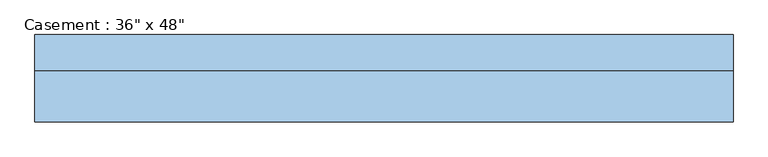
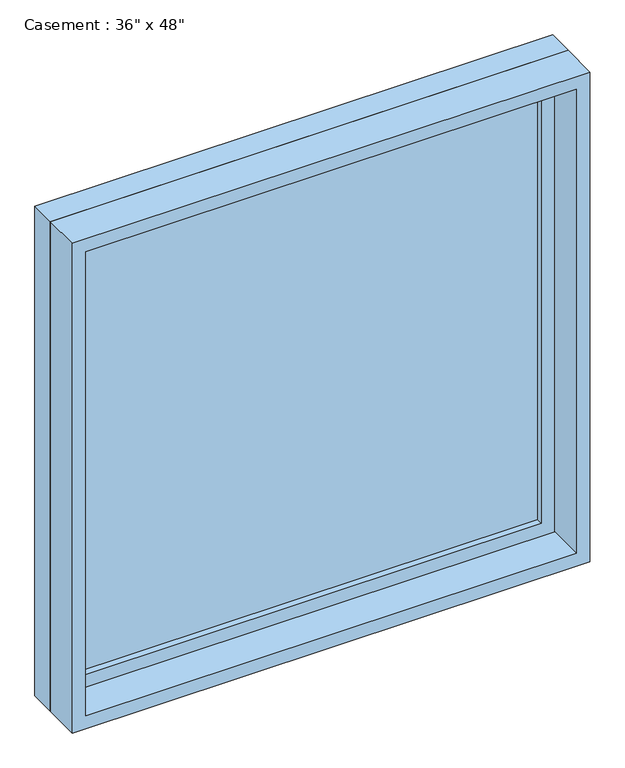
"""IFC4 building model written with IfcOpenShell, lengths in millimetres: window geometry."""

from ifc_helpers import new_model, si_unit, frame, origin, place, context, project, spatial, polyline, outline, extrude, source, transform, mapped, element, save


def window_ae901b66(model_context):
    return source(origin(), model_context, "Body", "SweptSolid", [
        extrude(outline(polyline([(546.1, 28.575), (-546.1, 28.575), (-546.1, 41.275), (546.1, 41.275), (546.1, 28.575)])), frame((0.0, 0.0, 977.9), z_axis=(0.0, 0.0, 1.0), x_axis=(1.0, 0.0, 0.0)), (0.0, 0.0, 1.0), 1092.2),
        extrude(outline(polyline([(2114.55, -590.55), (933.45, -590.55), (933.45, 590.55), (2114.55, 590.55), (2114.55, -590.55)]), holes=[polyline([(2070.1, -546.1), (2070.1, 546.1), (977.9, 546.1), (977.9, -546.1), (2070.1, -546.1)])]), frame((0.0, 12.7, 0.0), z_axis=(0.0, 1.0, 0.0), x_axis=(0.0, 0.0, 1.0)), (0.0, 0.0, 1.0), 44.45),
        extrude(outline(polyline([(2133.6, -609.6), (914.4, -609.6), (914.4, 609.6), (2133.6, 609.6), (2133.6, -609.6)]), holes=[polyline([(2101.85, -577.85), (2101.85, 577.85), (946.15, 577.85), (946.15, -577.85), (2101.85, -577.85)])]), frame((0.0, -76.2, 0.0), z_axis=(0.0, 1.0, 0.0), x_axis=(0.0, 0.0, 1.0)), (0.0, 0.0, 1.0), 88.9),
        extrude(outline(polyline([(2133.6, 609.6), (2133.6, -609.6), (914.4, -609.6), (914.4, 609.6), (2133.6, 609.6)]), holes=[polyline([(2114.55, 590.55), (933.45, 590.55), (933.45, -590.55), (2114.55, -590.55), (2114.55, 590.55)])]), frame((0.0, 12.7, 0.0), z_axis=(0.0, 1.0, 0.0), x_axis=(0.0, 0.0, 1.0)), (0.0, 0.0, 1.0), 63.5),
    ])


if __name__ == "__main__":
    model = new_model("IFC4")
    model_context = context("Model", 3, world=origin())
    ifc_project = project(units=[si_unit("LENGTHUNIT", "METRE", prefix="MILLI")], contexts=[model_context])
    site = spatial("IfcSite", under=ifc_project)
    building = spatial("IfcBuilding", under=site)
    placement = place(None, origin())
    window_shape = window_ae901b66(model_context)
    element("IfcWindow", 1, ObjectType="Casement : 36\" x 48\"", at=placement, inside=building, context=model_context, shape_type="MappedRepresentation", body=[
        mapped(window_shape, transform((0.0, 0.0, 0.0), x_axis=(1.0, 0.0, 0.0), y_axis=(0.0, 1.0, 0.0), z_axis=(0.0, 0.0, 1.0))),
    ])
    save(model, "model.ifc")
